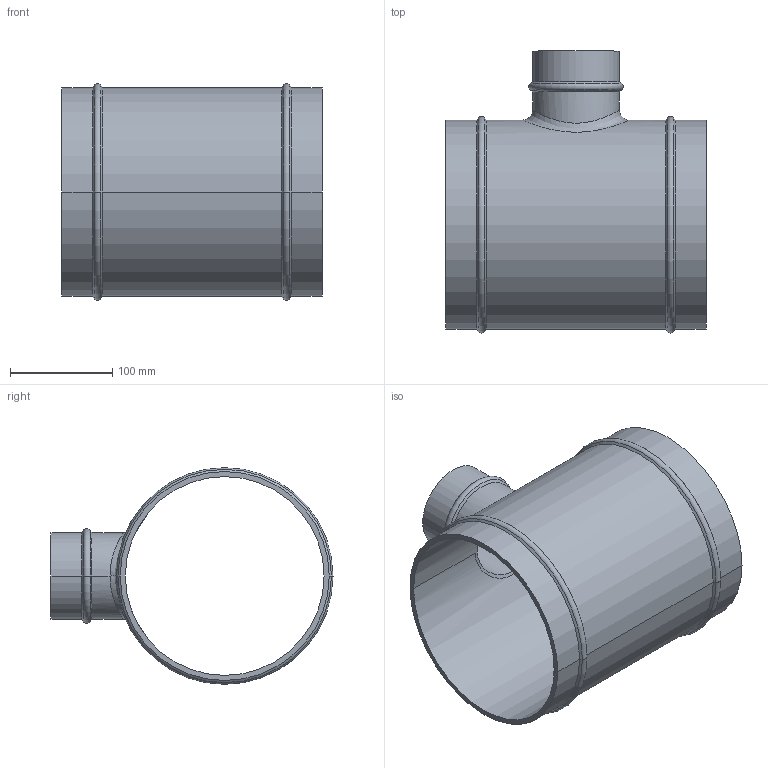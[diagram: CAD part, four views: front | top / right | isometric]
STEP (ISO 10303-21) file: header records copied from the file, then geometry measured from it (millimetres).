
FILE_DESCRIPTION((''),'2;1');
FILE_NAME('2012A70700','2017-05-10T',('Administrator'),(''),'PRO/ENGINEER BY PARAMETRIC TECHNOLOGY CORPORATION, 2009360','PRO/ENGINEER BY PARAMETRIC TECHNOLOGY CORPORATION, 2009360','');
FILE_SCHEMA(('AUTOMOTIVE_DESIGN_CC2 { 1 2 10303 214 -1 1 5 2 }'));
Length unit declared in the file: millimetre
Products named in the file (1): 2012A70700
Bounding box: 255 x 275.99 x 211.97 mm (x, y, z)
Volume: 872755.3 mm3; surface area: 358979.3 mm2
Topology: 1 solids, 1 shells, 37 faces, 79 edges, 44 vertices
Faces by surface type: cylinder 14, cone 12, torus 6, plane 3, bspline 2
Entity records: 1687 total; most frequent: CARTESIAN_POINT 604, DIRECTION 186, ORIENTED_EDGE 158, PRESENTATION_STYLE_ASSIGNMENT 80, STYLED_ITEM 80, AXIS2_PLACEMENT_3D 79, CURVE_STYLE 79, EDGE_CURVE 79
